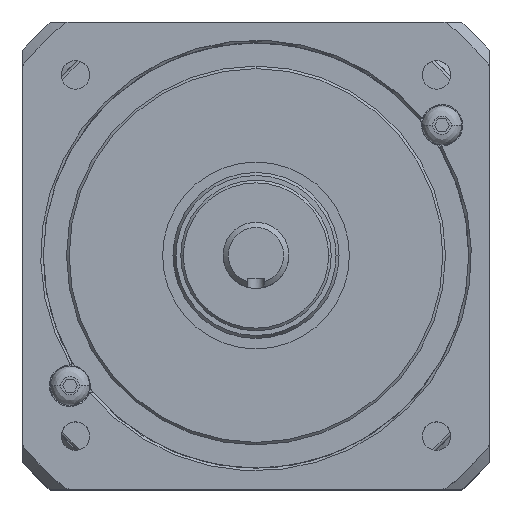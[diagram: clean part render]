
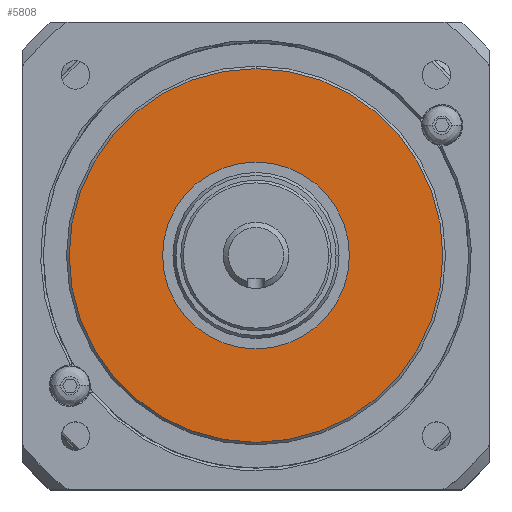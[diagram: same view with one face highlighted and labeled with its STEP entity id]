
A CAD part, top view. The second image highlights one B-rep face of the part: STEP entity #5808.
In plain terms, the highlighted planar face has unit normal (0, 0, 1).
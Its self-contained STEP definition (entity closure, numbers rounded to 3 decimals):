
#5589=CARTESIAN_POINT('',(0.,0.,61.7));
#5590=DIRECTION('',(0.,0.,-1.));
#5591=DIRECTION('',(-1.,0.,0.));
#5592=AXIS2_PLACEMENT_3D('',#5589,#5590,#5591);
#5594=CARTESIAN_POINT('',(0.,0.,61.7));
#5595=DIRECTION('',(0.,0.,-1.));
#5596=DIRECTION('',(1.,0.,0.));
#5597=AXIS2_PLACEMENT_3D('',#5594,#5595,#5596);
#5599=CARTESIAN_POINT('',(0.,0.,
61.7));
#5600=DIRECTION('',(0.,0.,1.));
#5601=DIRECTION('',(0.,1.,0.));
#5602=AXIS2_PLACEMENT_3D('',#5599,#5600,#5601);
#5604=CARTESIAN_POINT('',(0.,0.,
61.7));
#5605=DIRECTION('',(0.,0.,1.));
#5606=DIRECTION('',(0.,-1.,0.));
#5607=AXIS2_PLACEMENT_3D('',#5604,#5605,#5606);
#5747=CARTESIAN_POINT('',(-18.,0.,61.7));
#5748=CARTESIAN_POINT('',(18.,0.,61.7));
#5749=VERTEX_POINT('',#5747);
#5750=VERTEX_POINT('',#5748);
#5783=CARTESIAN_POINT('',(0.,36.012,61.7));
#5784=CARTESIAN_POINT('',(0.,-36.012,61.7));
#5785=VERTEX_POINT('',#5783);
#5786=VERTEX_POINT('',#5784);
#5791=CARTESIAN_POINT('',(0.,0.,61.7));
#5792=DIRECTION('',(0.,0.,1.));
#5793=DIRECTION('',(1.,0.,0.));
#5794=AXIS2_PLACEMENT_3D('',#5791,#5792,#5793);
#5795=PLANE('',#5794);
#5797=ORIENTED_EDGE('',*,*,#5796,.F.);
#5799=ORIENTED_EDGE('',*,*,#5798,.F.);
#5800=EDGE_LOOP('',(#5797,#5799));
#5801=FACE_OUTER_BOUND('',#5800,.F.);
#5803=ORIENTED_EDGE('',*,*,#5802,.F.);
#5805=ORIENTED_EDGE('',*,*,#5804,.F.);
#5806=EDGE_LOOP('',(#5803,#5805));
#5807=FACE_BOUND('',#5806,.F.);
#5808=ADVANCED_FACE('',(#5801,#5807),#5795,.T.);
#5593=CIRCLE('',#5592,18.);
#5598=CIRCLE('',#5597,18.);
#5603=CIRCLE('',#5602,36.012);
#5608=CIRCLE('',#5607,36.012);
#5796=EDGE_CURVE('',#5785,#5786,#5603,.T.);
#5798=EDGE_CURVE('',#5786,#5785,#5608,.T.);
#5802=EDGE_CURVE('',#5749,#5750,#5593,.T.);
#5804=EDGE_CURVE('',#5750,#5749,#5598,.T.);
